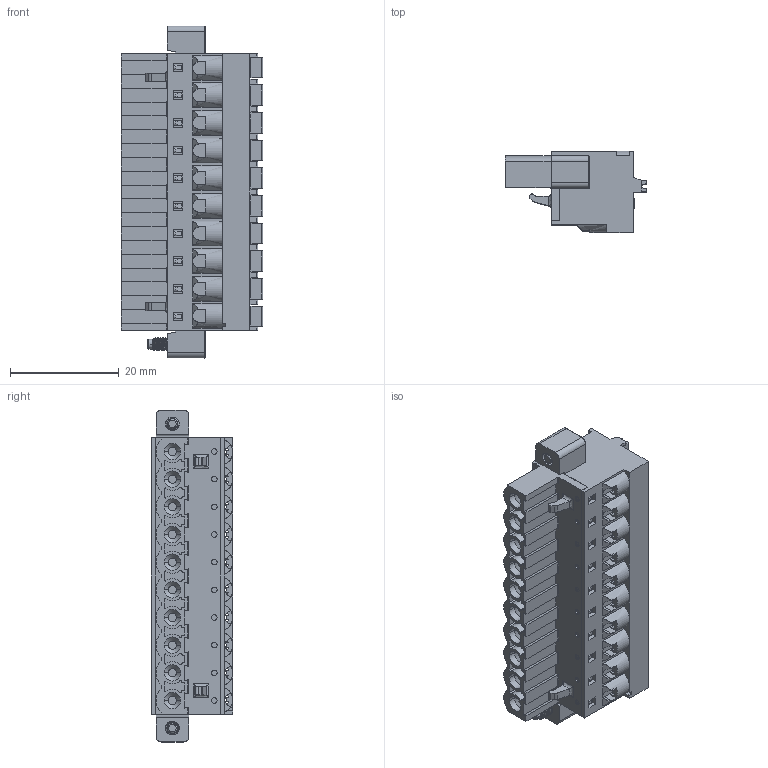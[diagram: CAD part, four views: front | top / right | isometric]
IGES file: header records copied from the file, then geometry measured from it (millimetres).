
Start section:  PTC IGES file: cu_ni-9980.igs
Global section: file name: cu_ni-9980.igs; native system: Creo Parametric by Parametric Technology Corporation; preprocessor: 2015280; author: dkendric; organization: Unknown; date: 20160229.092940; units: inch
Bounding box: 25.94 x 14.9 x 60.96 mm (x, y, z)
Surface area: 7857.8 mm2 (no closed solid volume)
Topology: 0 solids, 0 shells, 1662 faces, 9184 edges, 9184 vertices
Faces by surface type: bspline 907, revolution 576, extrusion 179
